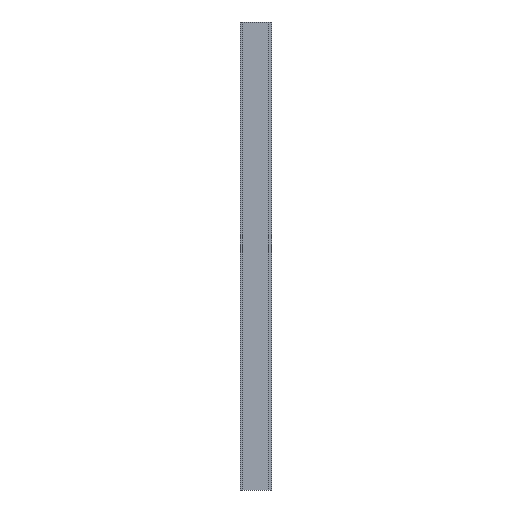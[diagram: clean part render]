
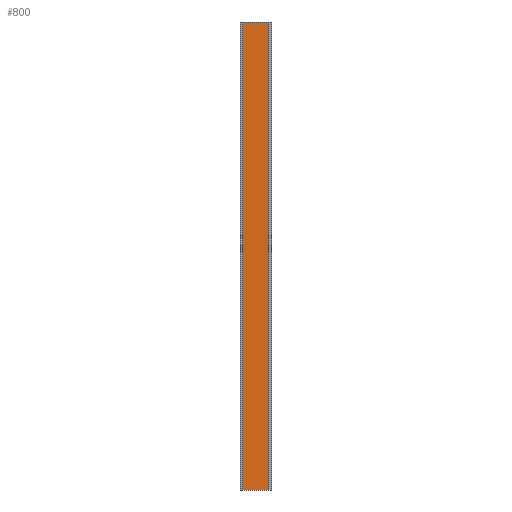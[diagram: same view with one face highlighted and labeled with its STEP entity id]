
A CAD part, left-side view. The second image highlights one B-rep face of the part: STEP entity #800.
In plain terms, the highlighted planar face has unit normal (-1, 0, 0).
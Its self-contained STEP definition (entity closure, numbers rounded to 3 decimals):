
#72 = PLANE('',#73);
#73 = AXIS2_PLACEMENT_3D('',#74,#75,#76);
#74 = CARTESIAN_POINT('',(0.,0.,
    3600.));
#75 = DIRECTION('',(-0.,-0.,1.));
#76 = DIRECTION('',(1.,0.,0.));
#126 = PLANE('',#127);
#127 = AXIS2_PLACEMENT_3D('',#128,#129,#130);
#128 = CARTESIAN_POINT('',(0.,0.,0.));
#129 = DIRECTION('',(-0.,-0.,1.));
#130 = DIRECTION('',(1.,0.,0.));
#257 = PLANE('',#258);
#258 = AXIS2_PLACEMENT_3D('',#259,#260,#261);
#259 = CARTESIAN_POINT('',(-70.,-100.,0.));
#260 = DIRECTION('',(-0.,-1.,-0.));
#261 = DIRECTION('',(-1.,0.,0.));
#296 = VERTEX_POINT('',#297);
#297 = CARTESIAN_POINT('',(-4.,-100.,0.));
#318 = EDGE_CURVE('',#296,#319,#321,.T.);
#319 = VERTEX_POINT('',#320);
#320 = CARTESIAN_POINT('',(-4.,100.,0.));
#321 = SURFACE_CURVE('',#322,(#326,#333),.PCURVE_S1.);
#322 = LINE('',#323,#324);
#323 = CARTESIAN_POINT('',(-4.,-100.,0.));
#324 = VECTOR('',#325,1.);
#325 = DIRECTION('',(-0.,1.,-0.));
#326 = PCURVE('',#126,#327);
#327 = DEFINITIONAL_REPRESENTATION('',(#328),#332);
#328 = LINE('',#329,#330);
#329 = CARTESIAN_POINT('',(-4.,-100.));
#330 = VECTOR('',#331,1.);
#331 = DIRECTION('',(-0.,1.));
#332 = ( GEOMETRIC_REPRESENTATION_CONTEXT(2) 
PARAMETRIC_REPRESENTATION_CONTEXT() REPRESENTATION_CONTEXT('2D SPACE',''
  ) );
#333 = PCURVE('',#334,#339);
#334 = PLANE('',#335);
#335 = AXIS2_PLACEMENT_3D('',#336,#337,#338);
#336 = CARTESIAN_POINT('',(-4.,-100.,0.));
#337 = DIRECTION('',(1.,-0.,-0.));
#338 = DIRECTION('',(0.,-1.,0.));
#339 = DEFINITIONAL_REPRESENTATION('',(#340),#344);
#340 = LINE('',#341,#342);
#341 = CARTESIAN_POINT('',(-0.,-0.));
#342 = VECTOR('',#343,1.);
#343 = DIRECTION('',(-1.,0.));
#344 = ( GEOMETRIC_REPRESENTATION_CONTEXT(2) 
PARAMETRIC_REPRESENTATION_CONTEXT() REPRESENTATION_CONTEXT('2D SPACE',''
  ) );
#362 = PLANE('',#363);
#363 = AXIS2_PLACEMENT_3D('',#364,#365,#366);
#364 = CARTESIAN_POINT('',(-4.,100.,0.));
#365 = DIRECTION('',(-0.,1.,-0.));
#366 = DIRECTION('',(1.,0.,0.));
#542 = VERTEX_POINT('',#543);
#543 = CARTESIAN_POINT('',(-4.,-100.,3600.));
#564 = EDGE_CURVE('',#542,#565,#567,.T.);
#565 = VERTEX_POINT('',#566);
#566 = CARTESIAN_POINT('',(-4.,100.,3600.));
#567 = SURFACE_CURVE('',#568,(#572,#579),.PCURVE_S1.);
#568 = LINE('',#569,#570);
#569 = CARTESIAN_POINT('',(-4.,-100.,3600.));
#570 = VECTOR('',#571,1.);
#571 = DIRECTION('',(-0.,1.,-0.));
#572 = PCURVE('',#72,#573);
#573 = DEFINITIONAL_REPRESENTATION('',(#574),#578);
#574 = LINE('',#575,#576);
#575 = CARTESIAN_POINT('',(-4.,-100.));
#576 = VECTOR('',#577,1.);
#577 = DIRECTION('',(-0.,1.));
#578 = ( GEOMETRIC_REPRESENTATION_CONTEXT(2) 
PARAMETRIC_REPRESENTATION_CONTEXT() REPRESENTATION_CONTEXT('2D SPACE',''
  ) );
#579 = PCURVE('',#334,#580);
#580 = DEFINITIONAL_REPRESENTATION('',(#581),#585);
#581 = LINE('',#582,#583);
#582 = CARTESIAN_POINT('',(-0.,-3600.));
#583 = VECTOR('',#584,1.);
#584 = DIRECTION('',(-1.,0.));
#585 = ( GEOMETRIC_REPRESENTATION_CONTEXT(2) 
PARAMETRIC_REPRESENTATION_CONTEXT() REPRESENTATION_CONTEXT('2D SPACE',''
  ) );
#779 = EDGE_CURVE('',#296,#542,#780,.T.);
#780 = SURFACE_CURVE('',#781,(#785,#792),.PCURVE_S1.);
#781 = LINE('',#782,#783);
#782 = CARTESIAN_POINT('',(-4.,-100.,0.));
#783 = VECTOR('',#784,1.);
#784 = DIRECTION('',(-0.,-0.,1.));
#785 = PCURVE('',#257,#786);
#786 = DEFINITIONAL_REPRESENTATION('',(#787),#791);
#787 = LINE('',#788,#789);
#788 = CARTESIAN_POINT('',(-66.,0.));
#789 = VECTOR('',#790,1.);
#790 = DIRECTION('',(-0.,-1.));
#791 = ( GEOMETRIC_REPRESENTATION_CONTEXT(2) 
PARAMETRIC_REPRESENTATION_CONTEXT() REPRESENTATION_CONTEXT('2D SPACE',''
  ) );
#792 = PCURVE('',#334,#793);
#793 = DEFINITIONAL_REPRESENTATION('',(#794),#798);
#794 = LINE('',#795,#796);
#795 = CARTESIAN_POINT('',(-0.,-0.));
#796 = VECTOR('',#797,1.);
#797 = DIRECTION('',(-0.,-1.));
#798 = ( GEOMETRIC_REPRESENTATION_CONTEXT(2) 
PARAMETRIC_REPRESENTATION_CONTEXT() REPRESENTATION_CONTEXT('2D SPACE',''
  ) );
#800 = ADVANCED_FACE('',(#801),#334,.F.);
#801 = FACE_BOUND('',#802,.T.);
#802 = EDGE_LOOP('',(#803,#804,#805,#826));
#803 = ORIENTED_EDGE('',*,*,#779,.T.);
#804 = ORIENTED_EDGE('',*,*,#564,.T.);
#805 = ORIENTED_EDGE('',*,*,#806,.F.);
#806 = EDGE_CURVE('',#319,#565,#807,.T.);
#807 = SURFACE_CURVE('',#808,(#812,#819),.PCURVE_S1.);
#808 = LINE('',#809,#810);
#809 = CARTESIAN_POINT('',(-4.,100.,0.));
#810 = VECTOR('',#811,1.);
#811 = DIRECTION('',(-0.,-0.,1.));
#812 = PCURVE('',#334,#813);
#813 = DEFINITIONAL_REPRESENTATION('',(#814),#818);
#814 = LINE('',#815,#816);
#815 = CARTESIAN_POINT('',(-200.,-0.));
#816 = VECTOR('',#817,1.);
#817 = DIRECTION('',(-0.,-1.));
#818 = ( GEOMETRIC_REPRESENTATION_CONTEXT(2) 
PARAMETRIC_REPRESENTATION_CONTEXT() REPRESENTATION_CONTEXT('2D SPACE',''
  ) );
#819 = PCURVE('',#362,#820);
#820 = DEFINITIONAL_REPRESENTATION('',(#821),#825);
#821 = LINE('',#822,#823);
#822 = CARTESIAN_POINT('',(-0.,-0.));
#823 = VECTOR('',#824,1.);
#824 = DIRECTION('',(-0.,-1.));
#825 = ( GEOMETRIC_REPRESENTATION_CONTEXT(2) 
PARAMETRIC_REPRESENTATION_CONTEXT() REPRESENTATION_CONTEXT('2D SPACE',''
  ) );
#826 = ORIENTED_EDGE('',*,*,#318,.F.);
